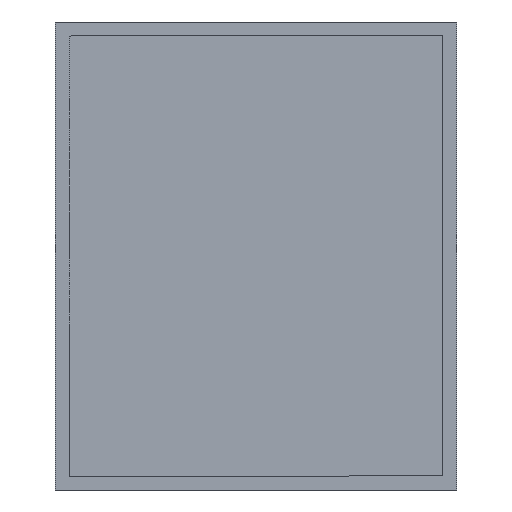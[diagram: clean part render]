
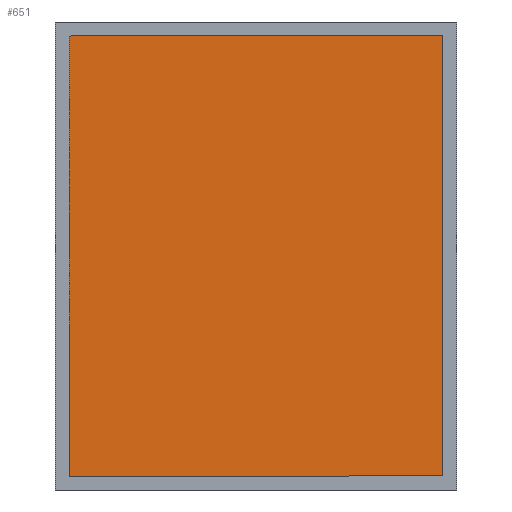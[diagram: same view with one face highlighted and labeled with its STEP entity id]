
A CAD part, front view. The second image highlights one B-rep face of the part: STEP entity #651.
In plain terms, the highlighted planar face has unit normal (0, -1, 0).
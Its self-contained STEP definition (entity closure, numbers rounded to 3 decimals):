
#152=ORIENTED_EDGE('',*,*,#252,.F.);
#153=ORIENTED_EDGE('',*,*,#262,.F.);
#154=ORIENTED_EDGE('',*,*,#259,.F.);
#155=ORIENTED_EDGE('',*,*,#256,.F.);
#252=EDGE_CURVE('',#320,#321,#392,.T.);
#256=EDGE_CURVE('',#321,#324,#396,.T.);
#259=EDGE_CURVE('',#324,#326,#399,.T.);
#262=EDGE_CURVE('',#326,#320,#402,.T.);
#320=VERTEX_POINT('',#1002);
#321=VERTEX_POINT('',#1003);
#324=VERTEX_POINT('',#1011);
#326=VERTEX_POINT('',#1017);
#392=LINE('',#1001,#476);
#396=LINE('',#1010,#480);
#399=LINE('',#1016,#483);
#402=LINE('',#1022,#486);
#476=VECTOR('',#829,1000.);
#480=VECTOR('',#835,1000.);
#483=VECTOR('',#840,1000.);
#486=VECTOR('',#845,1000.);
#539=EDGE_LOOP('',(#152,#153,#154,#155));
#579=FACE_BOUND('',#539,.T.);
#616=PLANE('',#724);
#651=ADVANCED_FACE('',(#579),#616,.F.);
#724=AXIS2_PLACEMENT_3D('',#1025,#849,#850);
#829=DIRECTION('',(1.,0.,0.));
#835=DIRECTION('',(0.,0.,-1.));
#840=DIRECTION('',(-1.,0.,0.));
#845=DIRECTION('',(0.,0.,1.));
#849=DIRECTION('',(0.,1.,0.));
#850=DIRECTION('',(0.,0.,1.));
#1001=CARTESIAN_POINT('',(38.795,0.,730.892));
#1002=CARTESIAN_POINT('',(38.795,0.,730.892));
#1003=CARTESIAN_POINT('',(638.795,0.,730.892));
#1010=CARTESIAN_POINT('',(638.795,0.,730.892));
#1011=CARTESIAN_POINT('',(638.795,0.,30.892));
#1016=CARTESIAN_POINT('',(638.795,0.,30.892));
#1017=CARTESIAN_POINT('',(38.795,0.,30.892));
#1022=CARTESIAN_POINT('',(38.795,0.,30.892));
#1025=CARTESIAN_POINT('',(0.,0.,0.));
